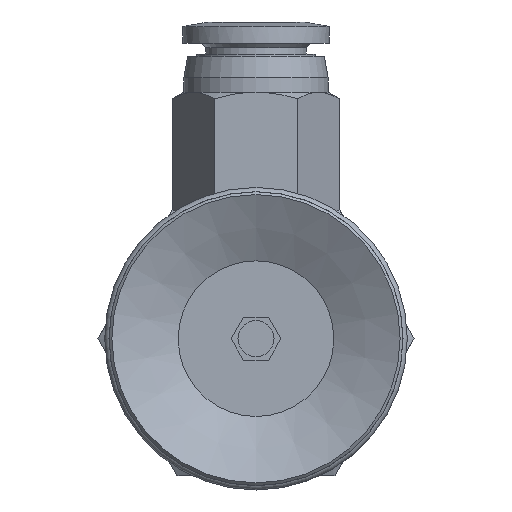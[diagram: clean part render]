
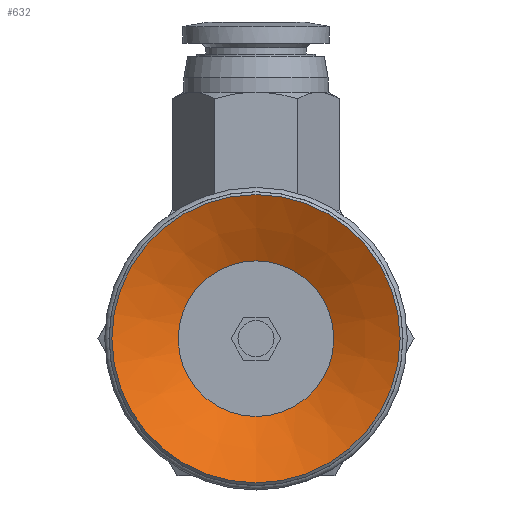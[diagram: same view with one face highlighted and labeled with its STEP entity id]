
A CAD part, front view. The second image highlights one B-rep face of the part: STEP entity #632.
In plain terms, the highlighted conical face has half-angle 63 degrees and reference radius 5.4 mm.
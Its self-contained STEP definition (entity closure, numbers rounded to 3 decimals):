
#632=ADVANCED_FACE('',(#978,#979),#980,.F.);
#978=FACE_BOUND('',#1399,.T.);
#979=FACE_OUTER_BOUND('',#1400,.T.);
#980=CONICAL_SURFACE('',#1401,5.4,1.1);
#1399=EDGE_LOOP('',(#2532));
#1400=EDGE_LOOP('',(#2533));
#1401=AXIS2_PLACEMENT_3D('',#2534,#2535,#2536);
#2532=ORIENTED_EDGE('',*,*,#3057,.F.);
#2533=ORIENTED_EDGE('',*,*,#3063,.T.);
#2534=CARTESIAN_POINT('',(0.0,5.518,0.0));
#2535=DIRECTION('',(-0.0,-1.0,0.));
#2536=DIRECTION('',(0.0,0.,-1.0));
#3057=EDGE_CURVE('',#3508,#3508,#3509,.T.);
#3063=EDGE_CURVE('',#3520,#3520,#3521,.T.);
#3508=VERTEX_POINT('',#4466);
#3509=CIRCLE('',#4467,5.4);
#3520=VERTEX_POINT('',#4478);
#3521=CIRCLE('',#4479,10.0);
#4466=CARTESIAN_POINT('',(0.0,5.518,-5.4));
#4467=AXIS2_PLACEMENT_3D('',#5273,#5274,#5275);
#4478=CARTESIAN_POINT('',(0.0,3.175,-10.0));
#4479=AXIS2_PLACEMENT_3D('',#5291,#5292,#5293);
#5273=CARTESIAN_POINT('',(0.0,5.518,0.0));
#5274=DIRECTION('',(0.0,-1.0,0.));
#5275=DIRECTION('',(0.0,0.,-1.0));
#5291=CARTESIAN_POINT('',(0.0,3.175,0.0));
#5292=DIRECTION('',(0.0,-1.0,0.));
#5293=DIRECTION('',(0.0,0.,-1.0));
